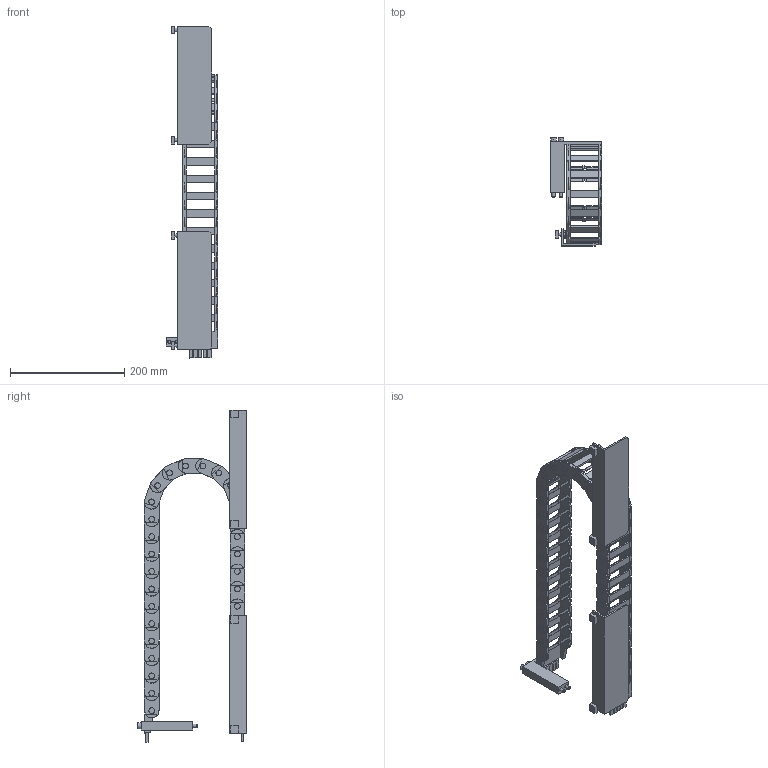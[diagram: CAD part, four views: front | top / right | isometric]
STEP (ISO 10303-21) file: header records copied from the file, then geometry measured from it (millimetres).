
FILE_DESCRIPTION( ( 'STEP AP214' ), '1' );
FILE_NAME( 'U:/Etudes/Top Solid/BIBLIO 3D AVM/STEP/STEP2007LINMOT/8319338.step', '2007-06-07T08:47:15', ( ' ' ), ( ' ' ), 'XStep 1.0', ' ', ' ' );
FILE_SCHEMA( ( 'automotive_design' ) );
Length unit declared in the file: metre
Products named in the file (34): 1; 2; 3; 4; 5; 6; 7; 8; 9; 10; 11; 12; 13; 14; 15; 16; 17; 18; 19; 20; 21; 22; 23; 24; 25; 26; 27; 28; 29; 30; 31; 32; 33; 34
Bounding box: 91 x 190 x 582 mm (x, y, z)
Volume: 525165.3 mm3; surface area: 374877.3 mm2
Topology: 34 solids, 36 shells, 2618 faces, 7381 edges, 4921 vertices
Faces by surface type: plane 1983, cylinder 633, cone 2
Full cylindrical faces by diameter (mm): 6 x12, 6.2 x4, 6.5 x2, 10 x2
Entity records: 106100 total; most frequent: CARTESIAN_POINT 15028, ORIENTED_EDGE 14682, DIRECTION 14401, EDGE_CURVE 7341, LINE 5577, VECTOR 5577, VERTEX_POINT 4903, AXIS2_PLACEMENT_3D 4412
